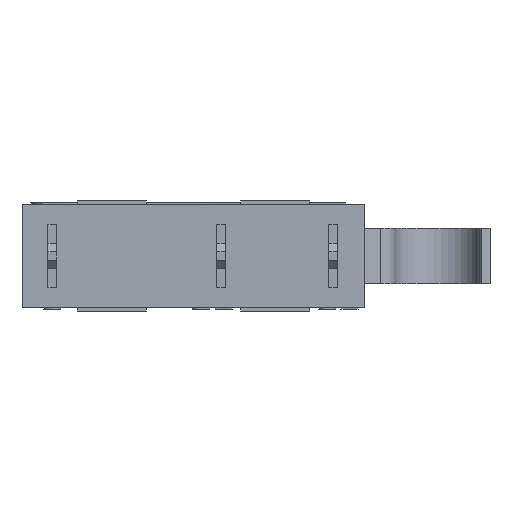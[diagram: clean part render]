
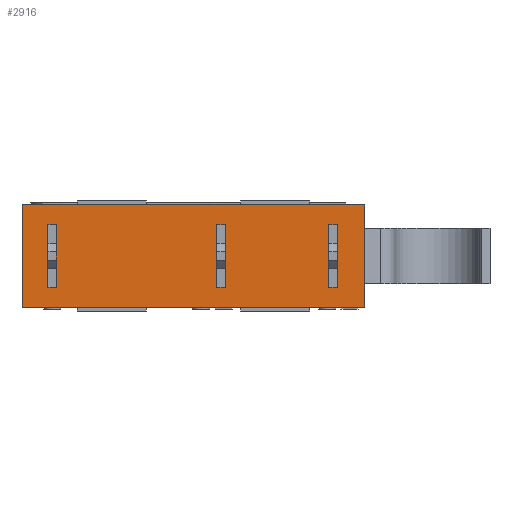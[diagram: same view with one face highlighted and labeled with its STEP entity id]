
A CAD part, front view. The second image highlights one B-rep face of the part: STEP entity #2916.
In plain terms, the highlighted planar face has unit normal (0, -1, 0).
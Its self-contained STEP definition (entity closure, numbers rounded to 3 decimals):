
#376=CARTESIAN_POINT('',(3.1,-2.4,1.8));
#377=VERTEX_POINT('',#376);
#378=CARTESIAN_POINT('',(3.1,-2.4,-1.8));
#379=VERTEX_POINT('',#378);
#380=CARTESIAN_POINT('',(3.1,-2.4,1.8));
#381=DIRECTION('',(0.0,0.0,-1.0));
#382=VECTOR('',#381,3.6);
#383=LINE('',#380,#382);
#384=EDGE_CURVE('',#377,#379,#383,.T.);
#464=CARTESIAN_POINT('',(3.6,-2.4,-1.8));
#465=VERTEX_POINT('',#464);
#466=CARTESIAN_POINT('',(3.1,-2.4,-1.8));
#467=DIRECTION('',(1.0,0.0,0.0));
#468=VECTOR('',#467,0.5);
#469=LINE('',#466,#468);
#470=EDGE_CURVE('',#379,#465,#469,.T.);
#495=CARTESIAN_POINT('',(3.6,-2.4,1.8));
#496=VERTEX_POINT('',#495);
#497=CARTESIAN_POINT('',(3.1,-2.4,1.8));
#498=DIRECTION('',(1.0,0.0,0.0));
#499=VECTOR('',#498,0.5);
#500=LINE('',#497,#499);
#501=EDGE_CURVE('',#377,#496,#500,.T.);
#687=CARTESIAN_POINT('',(3.6,-2.4,1.8));
#688=DIRECTION('',(0.0,0.0,-1.0));
#689=VECTOR('',#688,3.6);
#690=LINE('',#687,#689);
#691=EDGE_CURVE('',#496,#465,#690,.T.);
#710=CARTESIAN_POINT('',(-3.4,-2.4,1.8));
#711=VERTEX_POINT('',#710);
#712=CARTESIAN_POINT('',(-3.4,-2.4,-1.8));
#713=VERTEX_POINT('',#712);
#714=CARTESIAN_POINT('',(-3.4,-2.4,1.8));
#715=DIRECTION('',(0.0,0.0,-1.0));
#716=VECTOR('',#715,3.6);
#717=LINE('',#714,#716);
#718=EDGE_CURVE('',#711,#713,#717,.T.);
#798=CARTESIAN_POINT('',(-2.9,-2.4,-1.8));
#799=VERTEX_POINT('',#798);
#800=CARTESIAN_POINT('',(-3.4,-2.4,-1.8));
#801=DIRECTION('',(1.0,0.0,0.0));
#802=VECTOR('',#801,0.5);
#803=LINE('',#800,#802);
#804=EDGE_CURVE('',#713,#799,#803,.T.);
#829=CARTESIAN_POINT('',(-2.9,-2.4,1.8));
#830=VERTEX_POINT('',#829);
#831=CARTESIAN_POINT('',(-3.4,-2.4,1.8));
#832=DIRECTION('',(1.0,0.0,0.0));
#833=VECTOR('',#832,0.5);
#834=LINE('',#831,#833);
#835=EDGE_CURVE('',#711,#830,#834,.T.);
#1021=CARTESIAN_POINT('',(-2.9,-2.4,1.8));
#1022=DIRECTION('',(0.0,0.0,-1.0));
#1023=VECTOR('',#1022,3.6);
#1024=LINE('',#1021,#1023);
#1025=EDGE_CURVE('',#830,#799,#1024,.T.);
#1044=CARTESIAN_POINT('',(-13.2,-2.4,-1.8));
#1045=VERTEX_POINT('',#1044);
#1046=CARTESIAN_POINT('',(-13.2,-2.4,1.8));
#1047=VERTEX_POINT('',#1046);
#1048=CARTESIAN_POINT('',(-13.2,-2.4,-1.8));
#1049=DIRECTION('',(0.0,0.0,1.0));
#1050=VECTOR('',#1049,3.6);
#1051=LINE('',#1048,#1050);
#1052=EDGE_CURVE('',#1045,#1047,#1051,.T.);
#1132=CARTESIAN_POINT('',(-12.7,-2.4,-1.8));
#1133=VERTEX_POINT('',#1132);
#1134=CARTESIAN_POINT('',(-13.2,-2.4,-1.8));
#1135=DIRECTION('',(1.0,0.0,0.0));
#1136=VECTOR('',#1135,0.5);
#1137=LINE('',#1134,#1136);
#1138=EDGE_CURVE('',#1045,#1133,#1137,.T.);
#1163=CARTESIAN_POINT('',(-12.7,-2.4,1.8));
#1164=VERTEX_POINT('',#1163);
#1165=CARTESIAN_POINT('',(-13.2,-2.4,1.8));
#1166=DIRECTION('',(1.0,0.0,0.0));
#1167=VECTOR('',#1166,0.5);
#1168=LINE('',#1165,#1167);
#1169=EDGE_CURVE('',#1047,#1164,#1168,.T.);
#1355=CARTESIAN_POINT('',(-12.7,-2.4,-1.8));
#1356=DIRECTION('',(0.0,0.0,1.0));
#1357=VECTOR('',#1356,3.6);
#1358=LINE('',#1355,#1357);
#1359=EDGE_CURVE('',#1133,#1164,#1358,.T.);
#1889=CARTESIAN_POINT('',(5.2,-2.4,-3.0));
#1890=VERTEX_POINT('',#1889);
#1897=CARTESIAN_POINT('',(-14.7,-2.4,-3.0));
#1898=VERTEX_POINT('',#1897);
#1899=CARTESIAN_POINT('',(-14.7,-2.4,-3.0));
#1900=DIRECTION('',(1.0,0.0,0.0));
#1901=VECTOR('',#1900,19.9);
#1902=LINE('',#1899,#1901);
#1903=EDGE_CURVE('',#1898,#1890,#1902,.T.);
#2403=CARTESIAN_POINT('',(-14.7,-2.4,3.0));
#2404=VERTEX_POINT('',#2403);
#2405=CARTESIAN_POINT('',(-14.7,-2.4,-3.0));
#2406=DIRECTION('',(0.0,0.0,1.0));
#2407=VECTOR('',#2406,6.0);
#2408=LINE('',#2405,#2407);
#2409=EDGE_CURVE('',#1898,#2404,#2408,.T.);
#2875=CARTESIAN_POINT('',(5.2,-2.4,-3.0));
#2876=DIRECTION('',(0.0,-1.0,0.0));
#2877=DIRECTION('',(0.0,0.0,-1.0));
#2878=AXIS2_PLACEMENT_3D('',#2875,#2876,#2877);
#2879=PLANE('',#2878);
#2880=CARTESIAN_POINT('',(5.2,-2.4,3.0));
#2881=VERTEX_POINT('',#2880);
#2882=CARTESIAN_POINT('',(5.2,-2.4,-3.0));
#2883=DIRECTION('',(0.0,0.0,1.0));
#2884=VECTOR('',#2883,6.0);
#2885=LINE('',#2882,#2884);
#2886=EDGE_CURVE('',#1890,#2881,#2885,.T.);
#2887=ORIENTED_EDGE('',*,*,#2886,.T.);
#2888=CARTESIAN_POINT('',(5.2,-2.4,3.0));
#2889=DIRECTION('',(-1.0,0.0,0.0));
#2890=VECTOR('',#2889,19.9);
#2891=LINE('',#2888,#2890);
#2892=EDGE_CURVE('',#2881,#2404,#2891,.T.);
#2893=ORIENTED_EDGE('',*,*,#2892,.T.);
#2894=ORIENTED_EDGE('',*,*,#2409,.F.);
#2895=ORIENTED_EDGE('',*,*,#1903,.T.);
#2896=EDGE_LOOP('',(#2887,#2893,#2894,#2895));
#2897=FACE_OUTER_BOUND('',#2896,.T.);
#2898=ORIENTED_EDGE('',*,*,#501,.T.);
#2899=ORIENTED_EDGE('',*,*,#691,.T.);
#2900=ORIENTED_EDGE('',*,*,#470,.F.);
#2901=ORIENTED_EDGE('',*,*,#384,.F.);
#2902=EDGE_LOOP('',(#2898,#2899,#2900,#2901));
#2903=FACE_BOUND('',#2902,.T.);
#2904=ORIENTED_EDGE('',*,*,#804,.F.);
#2905=ORIENTED_EDGE('',*,*,#718,.F.);
#2906=ORIENTED_EDGE('',*,*,#835,.T.);
#2907=ORIENTED_EDGE('',*,*,#1025,.T.);
#2908=EDGE_LOOP('',(#2904,#2905,#2906,#2907));
#2909=FACE_BOUND('',#2908,.T.);
#2910=ORIENTED_EDGE('',*,*,#1052,.T.);
#2911=ORIENTED_EDGE('',*,*,#1169,.T.);
#2912=ORIENTED_EDGE('',*,*,#1359,.F.);
#2913=ORIENTED_EDGE('',*,*,#1138,.F.);
#2914=EDGE_LOOP('',(#2910,#2911,#2912,#2913));
#2915=FACE_BOUND('',#2914,.T.);
#2916=ADVANCED_FACE('',(#2897,#2903,#2909,#2915),#2879,.T.);
